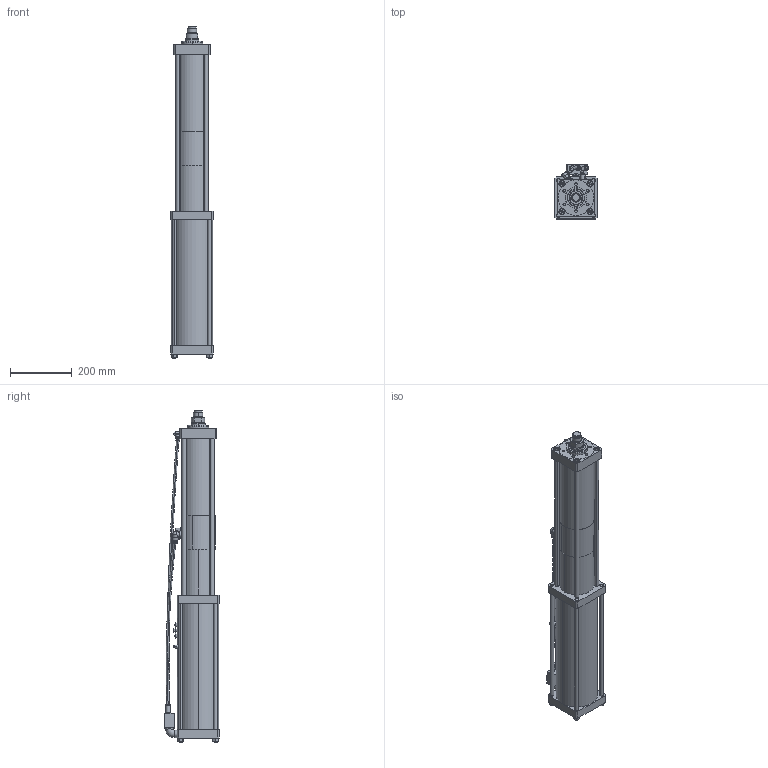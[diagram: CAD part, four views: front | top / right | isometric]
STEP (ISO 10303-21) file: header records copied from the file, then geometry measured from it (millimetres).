
FILE_DESCRIPTION (( 'STEP AP203' ), '1' );
FILE_NAME ('BS08-200-12S.step', '2025-07-31T09:39:49', ( 'Ranlm' ), ( '' ), 'SwSTEP 2.0', 'SolidWorks 2022', '' );
FILE_SCHEMA (( 'CONFIG_CONTROL_DESIGN' ));
Length unit declared in the file: millimetre
Products named in the file (1): BS08-200-12S
Bounding box: 137 x 176.5 x 1079 mm (x, y, z)
Surface area: 766708.5 mm2 (no closed solid volume)
Topology: 0 solids, 50 shells, 516 faces, 1432 edges, 948 vertices
Faces by surface type: plane 233, cylinder 178, cone 77, torus 21, bspline 6, sphere 1
Entity records: 17931 total; most frequent: CARTESIAN_POINT 4454, DIRECTION 3022, ORIENTED_EDGE 2391, EDGE_CURVE 1418, AXIS2_PLACEMENT_3D 1155, VERTEX_POINT 947, LINE 712, VECTOR 712
